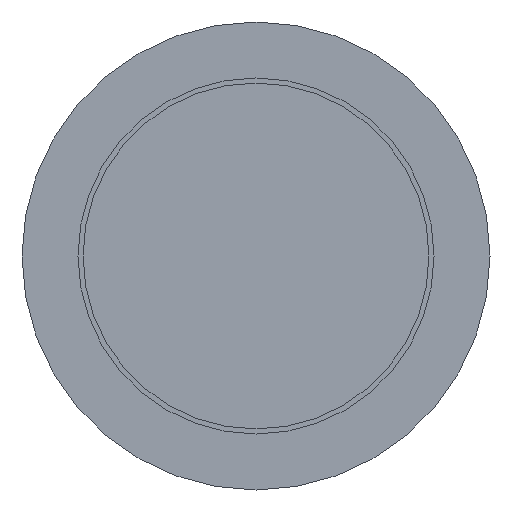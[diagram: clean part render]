
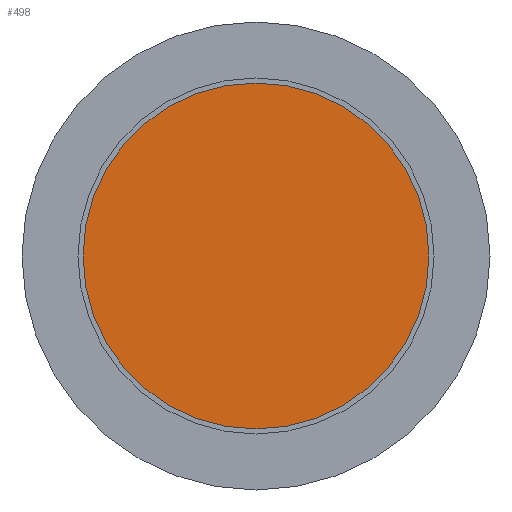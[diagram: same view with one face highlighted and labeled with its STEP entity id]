
A CAD part, front view. The second image highlights one B-rep face of the part: STEP entity #498.
In plain terms, the highlighted planar face has unit normal (0, -1, 0).
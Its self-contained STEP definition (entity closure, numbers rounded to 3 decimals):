
#318 = VERTEX_POINT( '', #855 );
#498 = ADVANCED_FACE( '', ( #1058 ), #1059, .F. );
#754 = EDGE_CURVE( '', #762, #318, #1339, .T. );
#762 = VERTEX_POINT( '', #1347 );
#784 = EDGE_CURVE( '', #318, #762, #1372, .T. );
#855 = CARTESIAN_POINT( '', ( 76., -18., 0. ) );
#1058 = FACE_OUTER_BOUND( '', #1724, .T. );
#1059 = PLANE( '', #1725 );
#1339 = CIRCLE( '', #2091, 34. );
#1347 = CARTESIAN_POINT( '', ( 8., -18., 0. ) );
#1372 = CIRCLE( '', #2130, 34. );
#1724 = EDGE_LOOP( '', ( #2502, #2503 ) );
#1725 = AXIS2_PLACEMENT_3D( '', #2504, #2505, #2506 );
#2091 = AXIS2_PLACEMENT_3D( '', #2807, #2808, #2809 );
#2130 = AXIS2_PLACEMENT_3D( '', #2844, #2845, #2846 );
#2502 = ORIENTED_EDGE( '', *, *, #784, .T. );
#2503 = ORIENTED_EDGE( '', *, *, #754, .T. );
#2504 = CARTESIAN_POINT( '', ( 0., -18., 0. ) );
#2505 = DIRECTION( '', ( 0., 1., 0. ) );
#2506 = DIRECTION( '', ( 0., 0., 1. ) );
#2807 = CARTESIAN_POINT( '', ( 42., -18., 0. ) );
#2808 = DIRECTION( '', ( 0., -1., 0. ) );
#2809 = DIRECTION( '', ( 1., 0., 0. ) );
#2844 = CARTESIAN_POINT( '', ( 42., -18., 0. ) );
#2845 = DIRECTION( '', ( 0., -1., 0. ) );
#2846 = DIRECTION( '', ( 1., 0., 0. ) );
